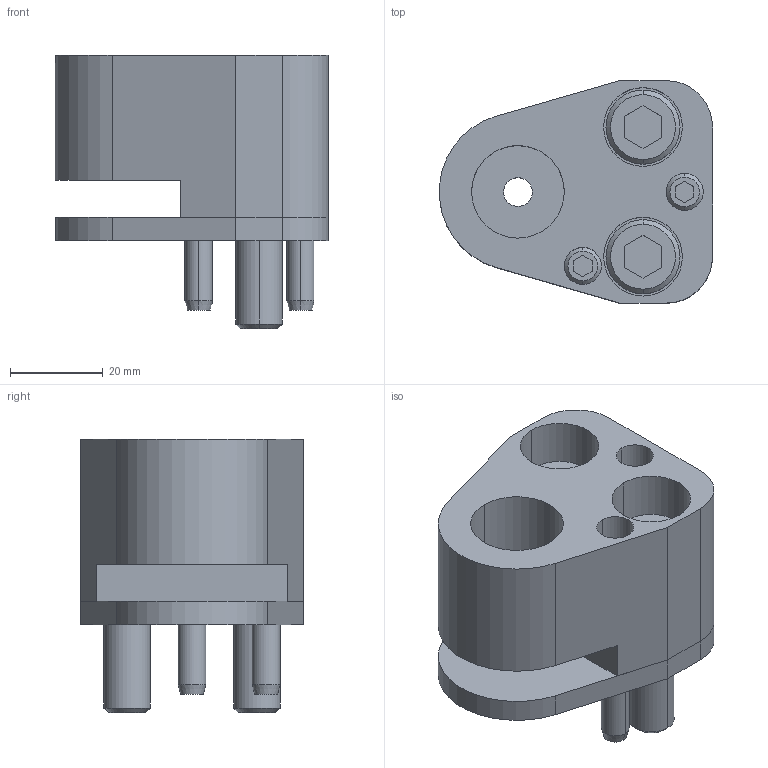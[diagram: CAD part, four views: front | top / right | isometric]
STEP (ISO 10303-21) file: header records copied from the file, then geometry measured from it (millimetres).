
FILE_DESCRIPTION(/* description */ (''),/* implementation_level */ '2;1');
FILE_NAME(/* name */ '3d_hap-fp20_02775_r00.stp',/* time_stamp */ '2011-01-10T14:14:57+09:00',/* author */ ('MISUMI'),/* organization */ (''),/* preprocessor_version */ 'ST-DEVELOPER v11',/* originating_system */ 'UGS - NX 5.0',/* authorisation */ '');
FILE_SCHEMA (('CONFIG_CONTROL_DESIGN'));
Length unit declared in the file: millimetre
Products named in the file (1): 3d_hap-fp20_02775_r00
Bounding box: 58.94 x 48 x 59 mm (x, y, z)
Volume: 71338.2 mm3; surface area: 27972.7 mm2
Topology: 8 solids, 8 shells, 156 faces, 356 edges, 229 vertices
Faces by surface type: plane 70, cylinder 60, cone 26
Entity records: 4562 total; most frequent: DIRECTION 812, CARTESIAN_POINT 795, ORIENTED_EDGE 712, EDGE_CURVE 356, AXIS2_PLACEMENT_3D 304, VERTEX_POINT 229, LINE 204, VECTOR 204
